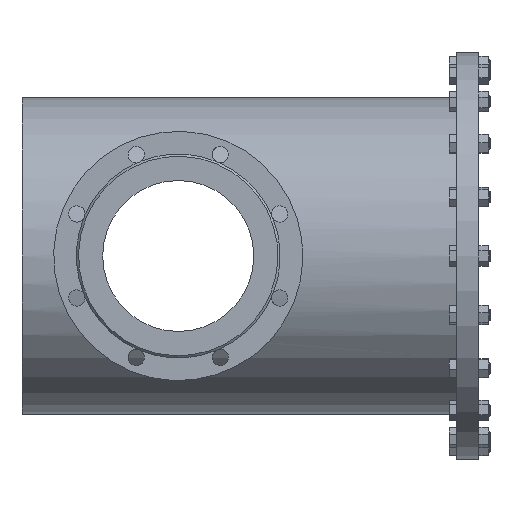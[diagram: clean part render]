
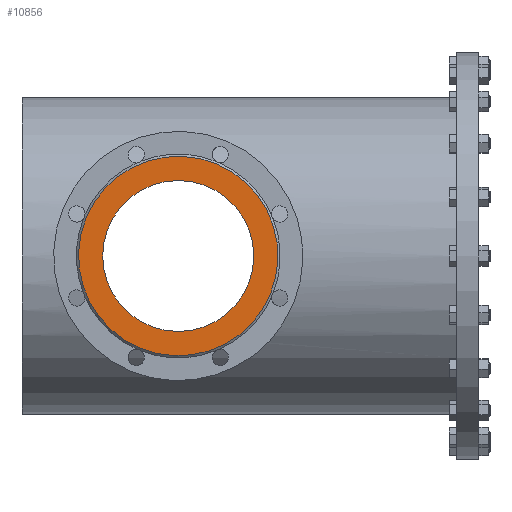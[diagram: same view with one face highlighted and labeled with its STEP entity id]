
A CAD part, left-side view. The second image highlights one B-rep face of the part: STEP entity #10856.
In plain terms, the highlighted planar face has unit normal (-1, 0, 0).
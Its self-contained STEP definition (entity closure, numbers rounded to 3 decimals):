
#169 = VERTEX_POINT ( 'NONE', #5959 ) ;
#1787 = CARTESIAN_POINT ( 'NONE',  ( -313., 380., 0. ) ) ;
#2168 = ORIENTED_EDGE ( 'NONE', *, *, #3884, .T. ) ;
#2410 = AXIS2_PLACEMENT_3D ( 'NONE', #4345, #2932, #7839 ) ;
#2932 = DIRECTION ( 'NONE',  ( -1., 0., 0. ) ) ;
#3095 = FACE_BOUND ( 'NONE', #9590, .T. ) ;
#3167 = DIRECTION ( 'NONE',  ( 0., 0., 1. ) ) ;
#3668 = EDGE_CURVE ( 'NONE', #13212, #8589, #11956, .T. ) ;
#3884 = EDGE_CURVE ( 'NONE', #13055, #169, #11974, .T. ) ;
#3928 = CARTESIAN_POINT ( 'NONE',  ( -313., 328.72, 123.8 ) ) ;
#4073 = DIRECTION ( 'NONE',  ( -1., 0., 0. ) ) ;
#4239 = EDGE_CURVE ( 'NONE', #8589, #13212, #5768, .T. ) ;
#4345 = CARTESIAN_POINT ( 'NONE',  ( -313., 380., 0. ) ) ;
#5211 = ORIENTED_EDGE ( 'NONE', *, *, #14793, .T. ) ;
#5768 = CIRCLE ( 'NONE', #15059, 134. ) ;
#5832 = AXIS2_PLACEMENT_3D ( 'NONE', #9195, #9121, #3167 ) ;
#5959 = CARTESIAN_POINT ( 'NONE',  ( -313., 380., -101.5 ) ) ;
#7462 = CARTESIAN_POINT ( 'NONE',  ( -313., 431.28, -123.8 ) ) ;
#7689 = DIRECTION ( 'NONE',  ( 0., -0.383, 0.924 ) ) ;
#7839 = DIRECTION ( 'NONE',  ( 0., 0., 1. ) ) ;
#8478 = CARTESIAN_POINT ( 'NONE',  ( -313., 380., 0. ) ) ;
#8538 = ORIENTED_EDGE ( 'NONE', *, *, #3668, .T. ) ;
#8589 = VERTEX_POINT ( 'NONE', #7462 ) ;
#8817 = DIRECTION ( 'NONE',  ( -1., 0., 0. ) ) ;
#9121 = DIRECTION ( 'NONE',  ( 1., 0., 0. ) ) ;
#9195 = CARTESIAN_POINT ( 'NONE',  ( -313., 380., 0. ) ) ;
#9575 = CARTESIAN_POINT ( 'NONE',  ( -313., 380., 101.5 ) ) ;
#9590 = EDGE_LOOP ( 'NONE', ( #5211, #2168 ) ) ;
#9742 = DIRECTION ( 'NONE',  ( 1., 0., 0. ) ) ;
#9986 = FACE_OUTER_BOUND ( 'NONE', #15076, .T. ) ;
#10856 = ADVANCED_FACE ( 'NONE', ( #3095, #9986 ), #11378, .T. ) ;
#11378 = PLANE ( 'NONE',  #2410 ) ;
#11956 = CIRCLE ( 'NONE', #12968, 134. ) ;
#11974 = CIRCLE ( 'NONE', #13740, 101.5 ) ;
#12968 = AXIS2_PLACEMENT_3D ( 'NONE', #1787, #8817, #7689 ) ;
#13055 = VERTEX_POINT ( 'NONE', #9575 ) ;
#13212 = VERTEX_POINT ( 'NONE', #3928 ) ;
#13303 = CARTESIAN_POINT ( 'NONE',  ( -313., 380., 0. ) ) ;
#13455 = DIRECTION ( 'NONE',  ( 0., -0.383, 0.924 ) ) ;
#13740 = AXIS2_PLACEMENT_3D ( 'NONE', #8478, #9742, #14452 ) ;
#14260 = ORIENTED_EDGE ( 'NONE', *, *, #4239, .T. ) ;
#14452 = DIRECTION ( 'NONE',  ( 0., 0., 1. ) ) ;
#14793 = EDGE_CURVE ( 'NONE', #169, #13055, #14882, .T. ) ;
#14882 = CIRCLE ( 'NONE', #5832, 101.5 ) ;
#15059 = AXIS2_PLACEMENT_3D ( 'NONE', #13303, #4073, #13455 ) ;
#15076 = EDGE_LOOP ( 'NONE', ( #14260, #8538 ) ) ;
